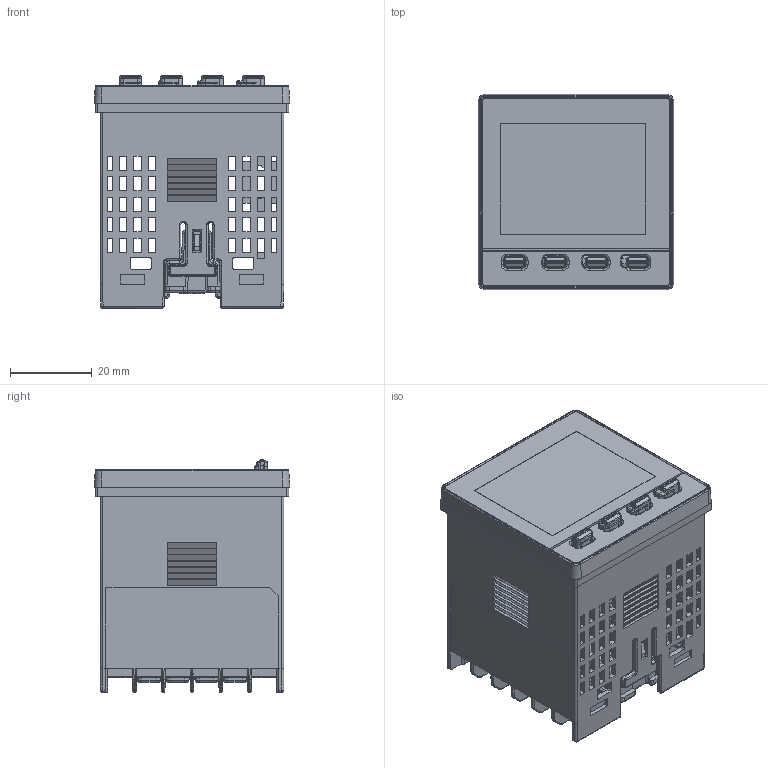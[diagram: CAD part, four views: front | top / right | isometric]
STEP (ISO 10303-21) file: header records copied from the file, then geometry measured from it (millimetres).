
FILE_DESCRIPTION((''),'2;1');
FILE_NAME('C62_ME_SET_ASM','2018-05-24T',('Harry'),(''),'CREO PARAMETRIC BY PTC INC, 2014350','CREO PARAMETRIC BY PTC INC, 2014350','');
FILE_SCHEMA(('CONFIG_CONTROL_DESIGN','GEOMETRIC_VALIDATION_PROPERTIES_MIM'));
Products named in the file (13): C62_COVER_FRONT; C62_FRONT_DECO; C62_HOUSING; C62_150616_GLASS; C62_LCD_SET_ASM; C62_PCB_CNTL_SET_ASM; C62_PCB_SET_ASM; C62_KEYTOP; C62_KEY_RUBBER; C62_KEY_MYLAR; C62_O-RING_OUT; ME_C62_COVER_OPT; C62_ME_SET_ASM
Assembly tree (15 placements, depth 5):
  C62_ME_SET_ASM
    C62_COVER_FRONT
    C62_FRONT_DECO
    C62_HOUSING
    C62_PCB_SET_ASM
      C62_PCB_CNTL_SET_ASM
        C62_LCD_SET_ASM
          C62_150616_GLASS
    C62_KEYTOP  x4
    C62_KEY_RUBBER
    C62_KEY_MYLAR
    C62_O-RING_OUT
    ME_C62_COVER_OPT
Bounding box: 47.8 x 47.8 x 56.7 mm (x, y, z)
Volume: 21540.9 mm3; surface area: 42587.6 mm2
Topology: 12 solids, 12 shells, 2977 faces, 7945 edges, 5039 vertices
Faces by surface type: plane 1860, cylinder 732, bspline 218, torus 82, cone 80, sphere 4, extrusion 1
Entity records: 115830 total; most frequent: CARTESIAN_POINT 28302, ORIENTED_EDGE 15326, DIRECTION 13218, EDGE_CURVE 7663, VECTOR 5832, LINE 5831, PRESENTATION_STYLE_ASSIGNMENT 5580, STYLED_ITEM 5571
